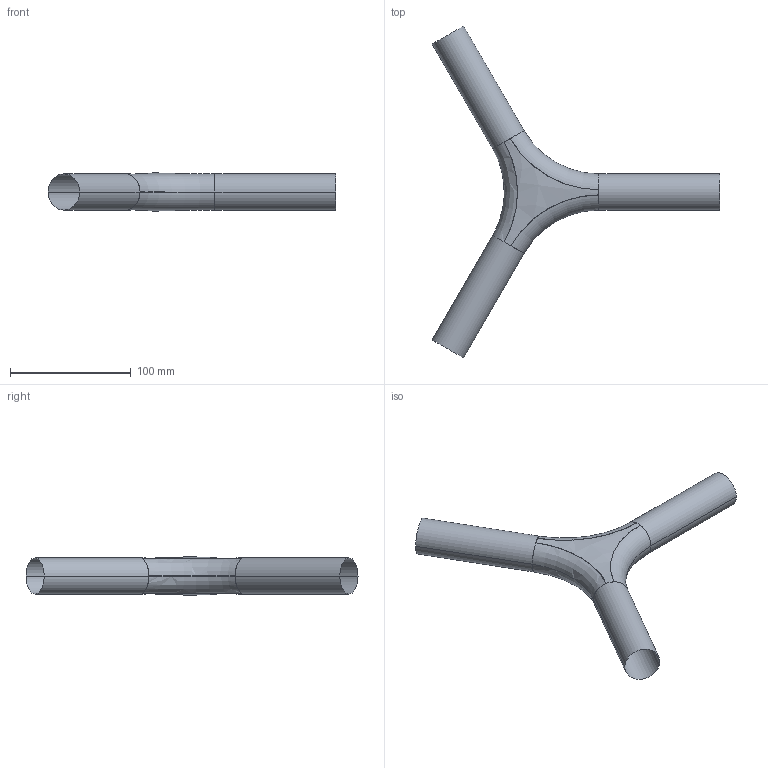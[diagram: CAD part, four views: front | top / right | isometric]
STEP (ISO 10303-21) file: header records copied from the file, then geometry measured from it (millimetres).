
FILE_DESCRIPTION(('CATIA V5 STEP Exchange'),'2;1');
FILE_NAME('C:\Users\H4NNiB4L\Desktop\CATIA How to Designa Y-Shaped Pipe Fiting\Part1.stp','2024-12-16T11:59:17+00:00',('none'),('none'),'CATIA Version 5 Release 21 GA (IN-10)','CATIA V5 STEP AP203','none');
FILE_SCHEMA(('CONFIG_CONTROL_DESIGN'));
Length unit declared in the file: millimetre
Products named in the file (1): Part1
Bounding box: 237.99 x 274.81 x 31.68 mm (x, y, z)
Surface area: 42108.4 mm2 (no closed solid volume)
Topology: 0 solids, 14 shells, 14 faces, 60 edges, 60 vertices
Faces by surface type: cylinder 6, torus 6, bspline 2
Entity records: 3402 total; most frequent: CARTESIAN_POINT 2905, DIRECTION 70, ORIENTED_EDGE 60, EDGE_CURVE 60, VERTEX_POINT 60, AXIS2_PLACEMENT_3D 45, CIRCLE 30, B_SPLINE_CURVE_WITH_KNOTS 18
